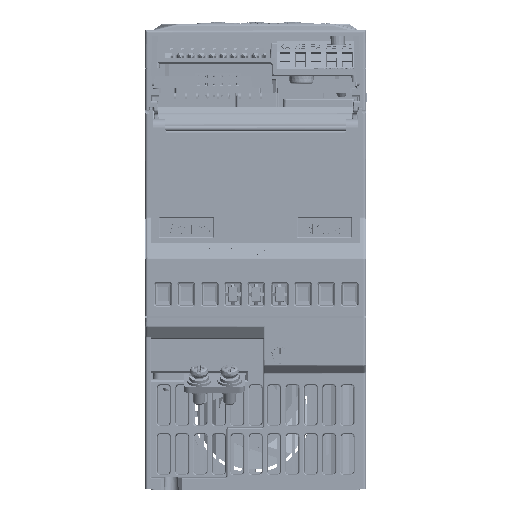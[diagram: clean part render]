
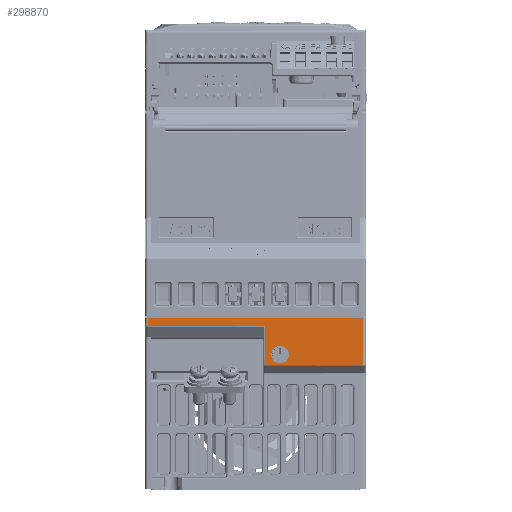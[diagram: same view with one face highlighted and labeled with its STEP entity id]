
A CAD part, front view. The second image highlights one B-rep face of the part: STEP entity #298870.
In plain terms, the highlighted planar face has unit normal (0, -1, 0).
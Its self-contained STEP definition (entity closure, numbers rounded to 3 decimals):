
#77869=DIRECTION('',(-1.,0.,0.));
#77870=VECTOR('',#77869,70.4);
#77871=CARTESIAN_POINT('',(35.2,-173.,-95.));
#77872=LINE('',#77871,#77870);
#113699=DIRECTION('',(1.,0.,0.));
#113700=VECTOR('',#113699,38.222);
#113701=CARTESIAN_POINT('',(-35.2,-173.,
-97.661));
#113702=LINE('',#113701,#113700);
#113730=CARTESIAN_POINT('',(8.,-173.,-107.));
#113731=DIRECTION('',(0.,-1.,0.));
#113732=DIRECTION('',(1.,0.,0.));
#113733=AXIS2_PLACEMENT_3D('',#113730,#113731,#113732);
#113738=CARTESIAN_POINT('',(8.,-173.,-107.));
#113739=DIRECTION('',(0.,-1.,0.));
#113740=DIRECTION('',(-1.,0.,0.));
#113741=AXIS2_PLACEMENT_3D('',#113738,#113739,#113740);
#113858=DIRECTION('',(0.,0.,1.));
#113859=VECTOR('',#113858,12.632);
#113860=CARTESIAN_POINT('',(3.022,-173.,-110.293));
#113861=LINE('',#113860,#113859);
#113865=DIRECTION('',(0.,0.,-1.));
#113866=VECTOR('',#113865,2.661);
#113867=CARTESIAN_POINT('',(-35.2,-173.,-95.));
#113868=LINE('',#113867,#113866);
#113872=DIRECTION('',(0.,0.,1.));
#113873=VECTOR('',#113872,15.293);
#113874=CARTESIAN_POINT('',(35.2,-173.,-110.293));
#113875=LINE('',#113874,#113873);
#113879=DIRECTION('',(1.,0.,0.));
#113880=VECTOR('',#113879,32.178);
#113881=CARTESIAN_POINT('',(3.022,-173.,-110.293));
#113882=LINE('',#113881,#113880);
#176256=CARTESIAN_POINT('',(10.901,-173.,-107.));
#176257=CARTESIAN_POINT('',(5.099,-173.,-107.));
#176258=VERTEX_POINT('',#176256);
#176259=VERTEX_POINT('',#176257);
#180685=CARTESIAN_POINT('',(-35.2,-173.,-95.));
#180687=VERTEX_POINT('',#180685);
#180688=CARTESIAN_POINT('',(-35.2,-173.,
-97.661));
#180689=VERTEX_POINT('',#180688);
#180700=CARTESIAN_POINT('',(35.2,-173.,-95.));
#180701=VERTEX_POINT('',#180700);
#180710=CARTESIAN_POINT('',(35.2,-173.,-110.293));
#180711=VERTEX_POINT('',#180710);
#181728=CARTESIAN_POINT('',(3.022,-173.,-110.293));
#181729=CARTESIAN_POINT('',(3.022,-173.,-97.661));
#181730=VERTEX_POINT('',#181728);
#181731=VERTEX_POINT('',#181729);
#298849=CARTESIAN_POINT('',(36.,-173.,-151.));
#298850=DIRECTION('',(0.,-1.,0.));
#298851=DIRECTION('',(-1.,0.,0.));
#298852=AXIS2_PLACEMENT_3D('',#298849,#298850,#298851);
#298853=PLANE('',#298852);
#298855=ORIENTED_EDGE('',*,*,#298854,.T.);
#298856=ORIENTED_EDGE('',*,*,#298790,.F.);
#298858=ORIENTED_EDGE('',*,*,#298857,.F.);
#298859=ORIENTED_EDGE('',*,*,#259438,.F.);
#298860=ORIENTED_EDGE('',*,*,#262381,.F.);
#298861=ORIENTED_EDGE('',*,*,#262474,.F.);
#298862=EDGE_LOOP('',(#298855,#298856,#298858,#298859,#298860,#298861));
#298863=FACE_OUTER_BOUND('',#298862,.F.);
#298865=ORIENTED_EDGE('',*,*,#298864,.T.);
#298867=ORIENTED_EDGE('',*,*,#298866,.T.);
#298868=EDGE_LOOP('',(#298865,#298867));
#298869=FACE_BOUND('',#298868,.F.);
#298870=ADVANCED_FACE('',(#298863,#298869),#298853,.T.);
#113734=CIRCLE('',#113733,2.901);
#113742=CIRCLE('',#113741,2.901);
#259438=EDGE_CURVE('',#180701,#180687,#77872,.T.);
#262381=EDGE_CURVE('',#180711,#180701,#113875,.T.);
#262474=EDGE_CURVE('',#181730,#180711,#113882,.T.);
#298790=EDGE_CURVE('',#180689,#181731,#113702,.T.);
#298854=EDGE_CURVE('',#181730,#181731,#113861,.T.);
#298857=EDGE_CURVE('',#180687,#180689,#113868,.T.);
#298864=EDGE_CURVE('',#176258,#176259,#113734,.T.);
#298866=EDGE_CURVE('',#176259,#176258,#113742,.T.);
